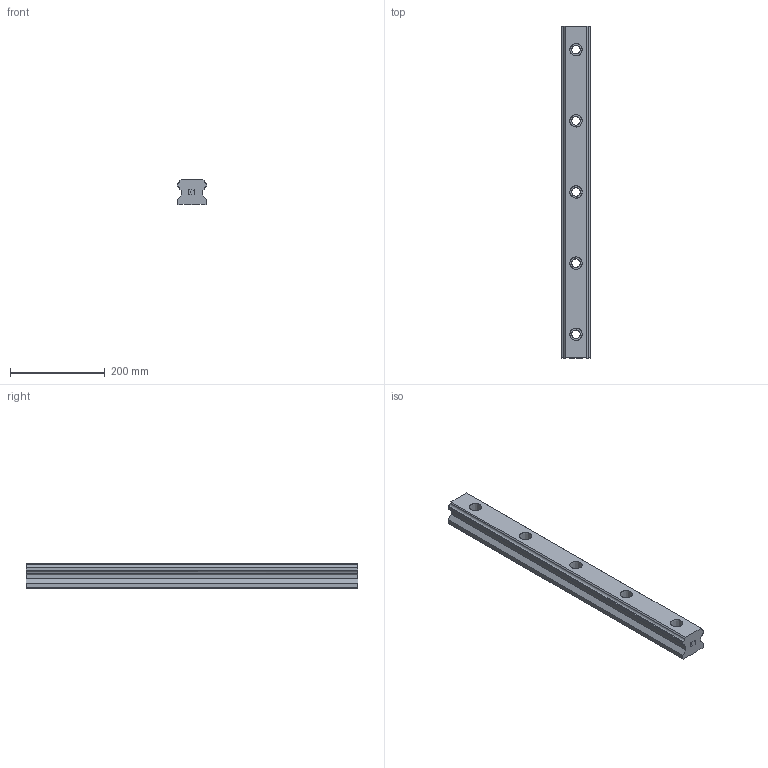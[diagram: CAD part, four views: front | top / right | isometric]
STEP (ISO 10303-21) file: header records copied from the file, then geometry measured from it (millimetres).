
FILE_DESCRIPTION(('STEP AP203'), '1');
FILE_NAME('Ðåëüñîâûå íàïðàâëÿþùèå Hiwin HGR65RH', '', ('UNSPECIFIED'), ('UNSPECIFIED'), 'ASCON STEP Converter 1.6', 'ASCON Math Kernel', '');
FILE_SCHEMA(('CONFIG_CONTROL_DESIGN'));
Length unit declared in the file: millimetre
Bounding box: 63 x 700 x 53 mm (x, y, z)
Volume: 1913111 mm3; surface area: 188924.2 mm2
Topology: 1 solids, 1 shells, 117 faces, 313 edges, 207 vertices
Faces by surface type: plane 98, bspline 14, extrusion 5
Entity records: 9908 total; most frequent: CARTESIAN_POINT 6174, ORIENTED_EDGE 596, DIRECTION 468, EDGE_CURVE 298, VECTOR 270, LINE 265, VERTEX_POINT 207, EDGE_LOOP 151
